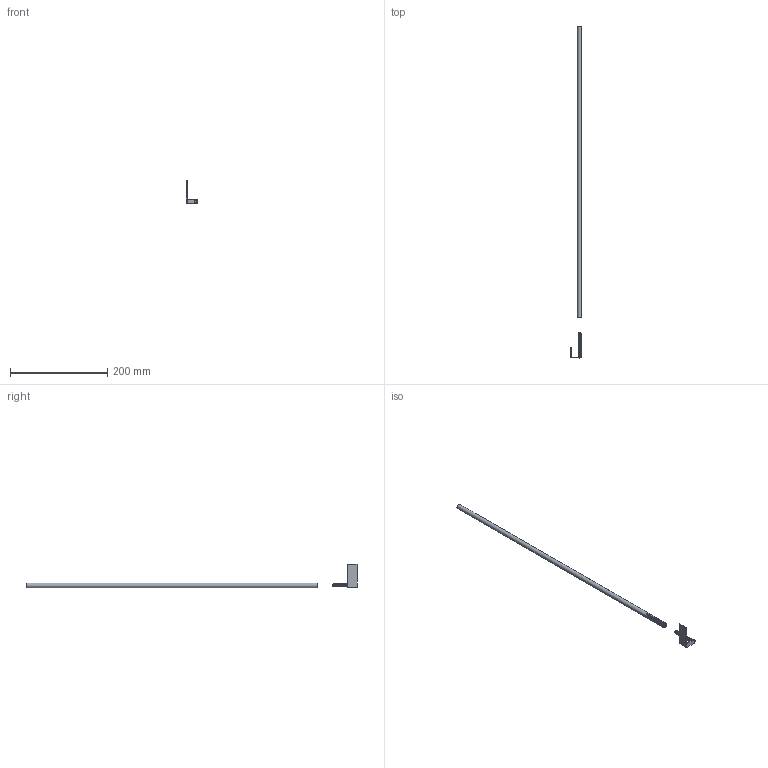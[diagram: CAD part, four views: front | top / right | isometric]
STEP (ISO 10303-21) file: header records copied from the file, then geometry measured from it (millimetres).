
FILE_DESCRIPTION(/* description */ (''),/* implementation_level */ '2;1');
FILE_NAME(/* name */ 'Rod2',/* time_stamp */ '2026-08-18T18:40:11+02:00',/* author */ (''),/* organization */ (''),/* preprocessor_version */ 'ST-DEVELOPER v19.2',/* originating_system */ 'Rhino 8.34',/* authorisation */ '');
FILE_SCHEMA (('CONFIG_CONTROL_DESIGN'));
Length unit declared in the file: millimetre
Products named in the file (1): Document
Bounding box: 24.48 x 682.31 x 48 mm (x, y, z)
Volume: 20678.1 mm3; surface area: 39476.3 mm2
Topology: 3 solids, 3 shells, 722 faces, 1539 edges, 825 vertices
Faces by surface type: bspline 504, cylinder 203, plane 15
Entity records: 24692 total; most frequent: CARTESIAN_POINT 12259, ORIENTED_EDGE 3078, DIRECTION 1720, EDGE_CURVE 1539, AXIS2_PLACEMENT_3D 969, VERTEX_POINT 825, TRIMMED_CURVE 749, CIRCLE 749
